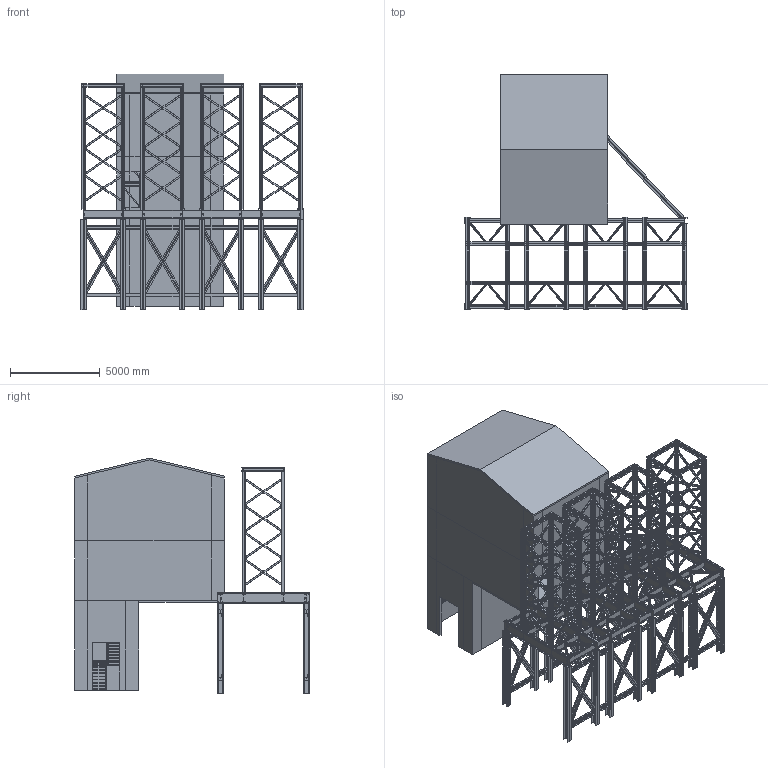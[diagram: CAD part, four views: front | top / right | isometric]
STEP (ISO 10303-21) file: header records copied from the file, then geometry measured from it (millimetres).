
FILE_DESCRIPTION(/* description */ (''),/* implementation_level */ '2;1');
FILE_NAME(/* name */ 'sdsdsff',/* time_stamp */ '2014-10-24T17:29:28+02:00',/* author */ (''),/* organization */ (''),/* preprocessor_version */ 'ST-DEVELOPER v12',/* originating_system */ 'MicroStation Version 08.11.09.459',/* authorisation */ '');
FILE_SCHEMA (('AUTOMOTIVE_DESIGN'));
Products named in the file (603): sdsdsff1; sdsdsff2; sdsdsff3; sdsdsff4; sdsdsff5; sdsdsff6; sdsdsff7; sdsdsff8; sdsdsff9; sdsdsff10; sdsdsff11; sdsdsff12; sdsdsff13; sdsdsff14; sdsdsff15; sdsdsff16; sdsdsff17; sdsdsff18; sdsdsff19; sdsdsff20; sdsdsff21; sdsdsff22; sdsdsff23; sdsdsff24; sdsdsff25; sdsdsff26; sdsdsff27; sdsdsff28; sdsdsff29; sdsdsff30; sdsdsff31; sdsdsff32; sdsdsff33; sdsdsff34; sdsdsff35; sdsdsff36; sdsdsff37; sdsdsff38; sdsdsff39; sdsdsff40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
Bounding box: 12400 x 13120 x 13173.77 mm (x, y, z)
Volume: 48100793487.7 mm3; surface area: 2218612710.3 mm2
Topology: 584 solids, 599 shells, 9892 faces, 25834 edges, 17124 vertices
Faces by surface type: plane 9892
Entity records: 316397 total; most frequent: CARTESIAN_POINT 53449, ORIENTED_EDGE 51580, DIRECTION 46816, VECTOR 25834, LINE 25834, EDGE_CURVE 25830, VERTEX_POINT 17116, AXIS2_PLACEMENT_3D 10491
